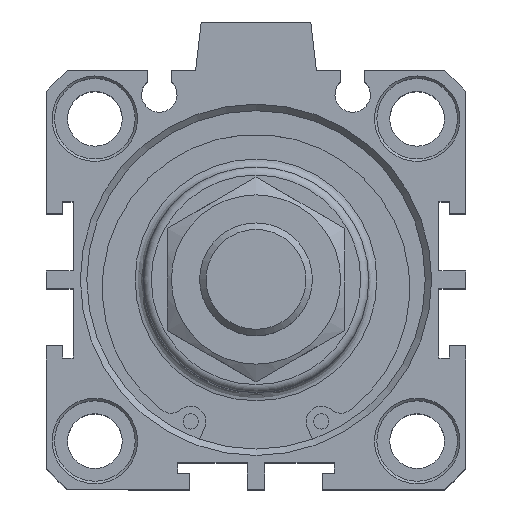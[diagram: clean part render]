
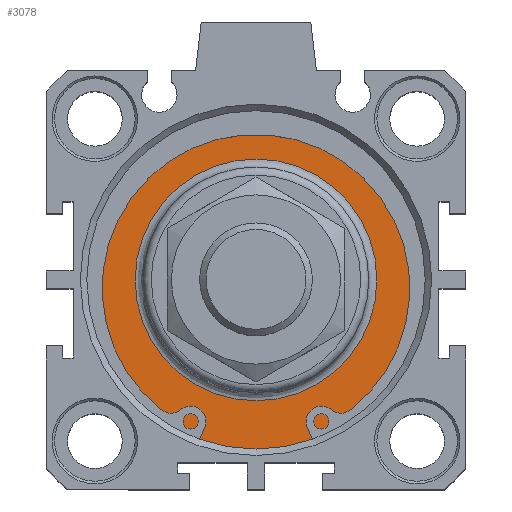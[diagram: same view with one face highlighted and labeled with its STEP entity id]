
A CAD part, top view. The second image highlights one B-rep face of the part: STEP entity #3078.
In plain terms, the highlighted planar face has unit normal (0, 0, 1).
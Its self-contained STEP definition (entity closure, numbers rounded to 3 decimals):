
#3027=CARTESIAN_POINT('',(-1.555,16.077,42.4));
#3028=VERTEX_POINT('',#3027);
#3029=CARTESIAN_POINT('',(-1.555,1.077,42.4));
#3030=DIRECTION('',(0.0,0.0,1.0));
#3031=DIRECTION('',(0.0,-1.0,0.0));
#3032=AXIS2_PLACEMENT_3D('',#3029,#3030,#3031);
#3033=CIRCLE('',#3032,15.);
#3034=EDGE_CURVE('',#3028,#3028,#3033,.T.);
#3059=CARTESIAN_POINT('',(-1.555,18.577,42.4));
#3060=DIRECTION('',(0.0,0.0,1.0));
#3061=DIRECTION('',(1.0,0.0,0.0));
#3062=AXIS2_PLACEMENT_3D('',#3059,#3060,#3061);
#3063=PLANE('',#3062);
#3064=CARTESIAN_POINT('',(-1.555,22.077,42.4));
#3065=VERTEX_POINT('',#3064);
#3066=CARTESIAN_POINT('',(-1.555,1.077,42.4));
#3067=DIRECTION('',(0.0,0.0,-1.0));
#3068=DIRECTION('',(0.0,1.0,0.0));
#3069=AXIS2_PLACEMENT_3D('',#3066,#3067,#3068);
#3070=CIRCLE('',#3069,21.);
#3071=EDGE_CURVE('',#3065,#3065,#3070,.T.);
#3072=ORIENTED_EDGE('',*,*,#3071,.F.);
#3073=EDGE_LOOP('',(#3072));
#3074=FACE_OUTER_BOUND('',#3073,.T.);
#3075=ORIENTED_EDGE('',*,*,#3034,.F.);
#3076=EDGE_LOOP('',(#3075));
#3077=FACE_BOUND('',#3076,.T.);
#3078=ADVANCED_FACE('',(#3074,#3077),#3063,.T.);
